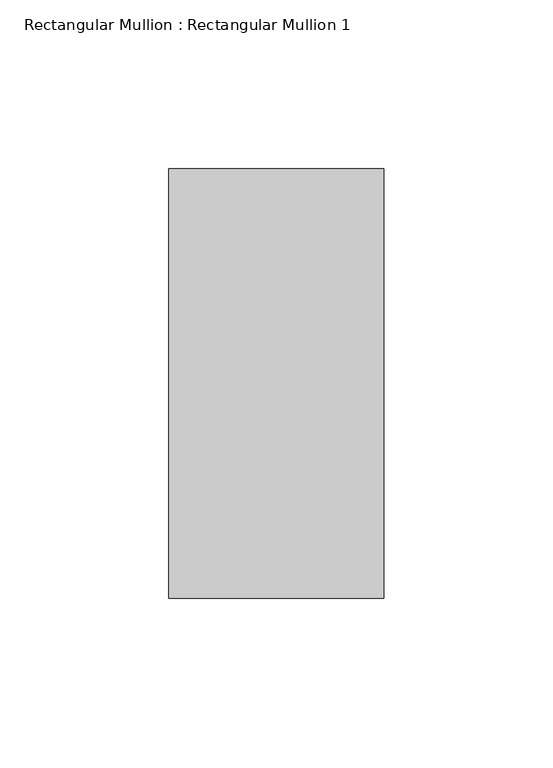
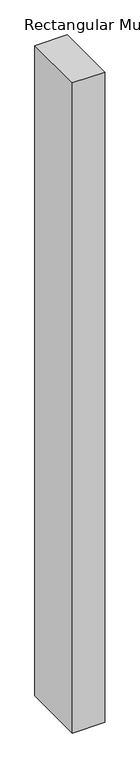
"""IFC4 building model written with IfcOpenShell, lengths in millimetres: member geometry, Rectangular Mullion : Rectangular Mullion 1."""

from ifc_helpers import new_model, si_unit, frame, origin, place, context, project, spatial, polyline, outline, extrude, source, transform, mapped, element, save


def rectangular_mullion_rectangular_mullion_1_ca357149(model_context):
    return source(origin(), model_context, "Body", "SweptSolid", [
        extrude(outline(polyline([(0.0, 63.5), (0.0, -63.5), (-63.5, -63.5), (-63.5, 63.5), (0.0, 63.5)])), frame((0.0, 0.0, -1344.7500002), z_axis=(0.0, 0.0, 1.0), x_axis=(1.0, 0.0, 0.0)), (0.0, 0.0, 1.0), 1344.7500002),
    ])


if __name__ == "__main__":
    model = new_model("IFC4")
    model_context = context("Model", 3, world=origin())
    ifc_project = project(units=[si_unit("LENGTHUNIT", "METRE", prefix="MILLI")], contexts=[model_context])
    site = spatial("IfcSite", under=ifc_project)
    building = spatial("IfcBuilding", under=site)
    placement = place(None, origin())
    rectangular_mullion_rectangular_mullion_1_shape = rectangular_mullion_rectangular_mullion_1_ca357149(model_context)
    element("IfcMember", 1, ObjectType="Rectangular Mullion : Rectangular Mullion 1", at=placement, inside=building, context=model_context, shape_type="MappedRepresentation", body=[
        mapped(rectangular_mullion_rectangular_mullion_1_shape, transform((0.0, 0.0, 0.0), x_axis=(1.0, 0.0, 0.0), y_axis=(0.0, 1.0, 0.0), z_axis=(0.0, 0.0, 1.0))),
    ])
    save(model, "model.ifc")
